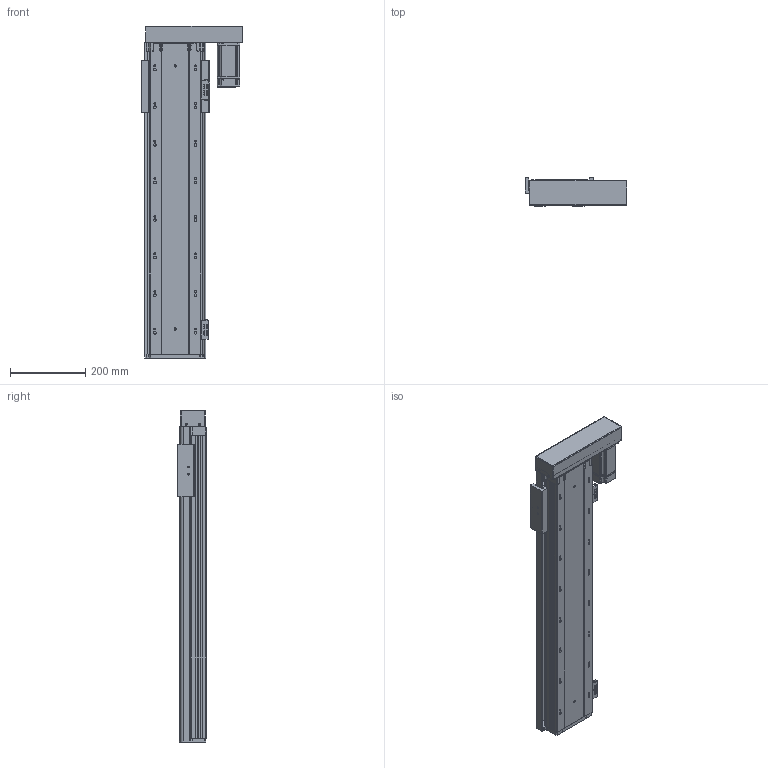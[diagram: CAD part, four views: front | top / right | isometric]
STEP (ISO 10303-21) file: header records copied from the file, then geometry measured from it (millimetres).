
FILE_DESCRIPTION (( 'STEP AP203' ), '1' );
FILE_NAME ('RY140FB-L2010-300-RK.SLDASM_600.step', '2021-02-23T02:41:02', ( '盈信电脑' ), ( '东莞市道滘镇水果街19号' ), 'SwSTEP 2.0', 'SolidWorks 2012', '' );
FILE_SCHEMA (( 'CONFIG_CONTROL_DESIGN' ));
Length unit declared in the file: millimetre
Products named in the file (17): RY140FB-L2010-300-RK.SLDASM_600; RY140-674嫖萇耀輸; RY140FB-左右折电机安装板; RY140FB-酘衵殏萇儂欶; RY140FB-覜茼え; RY140FB-300蛌殏奻裔啣-RK_600; RY140直线电机感应器674光电安装座; 覜茼ん674; 15; 侂狟400W侜督萇儂; RY140FB-20佪裝臏賑輸; RY140FB-綴裔啣; 滅袉蝶18-24; RY140FB-转折电机端支撑座(7002); 滅袉蝶18-10; RY140FB-300蛌殏倰第菁釱-RK_600
Assembly tree (20 placements, depth 3):
  RY140FB-L2010-300-RK.SLDASM_600
    RY140FB-300蛌殏倰第菁釱-RK_600
    RY140FB-綴裔啣
    滅袉蝶18-24  x2
    滅袉蝶18-10
    RY140FB-转折电机端支撑座(7002)
    侂狟400W侜督萇儂
      15
    RY140FB-20佪裝臏賑輸
    RY140FB-300蛌殏奻裔啣-RK_600
    RY140-674嫖萇耀輸
      覜茼ん674
      RY140直线电机感应器674光电安装座
    RY140-674嫖萇耀輸
      覜茼ん674  x2
      RY140直线电机感应器674光电安装座
    RY140FB-覜茼え
    RY140FB-左右折电机安装板
    RY140FB-酘衵殏萇儂欶
Bounding box: 271.3 x 75 x 883.2 mm (x, y, z)
Volume: 3712945 mm3; surface area: 1222776.3 mm2
Topology: 17 solids, 17 shells, 1782 faces, 4875 edges, 3101 vertices
Faces by surface type: cylinder 865, plane 723, cone 166, bspline 28
Entity records: 53669 total; most frequent: CARTESIAN_POINT 10785, DIRECTION 8712, ORIENTED_EDGE 8466, EDGE_CURVE 4233, AXIS2_PLACEMENT_3D 3148, VERTEX_POINT 2769, VECTOR 2416, LINE 2416
